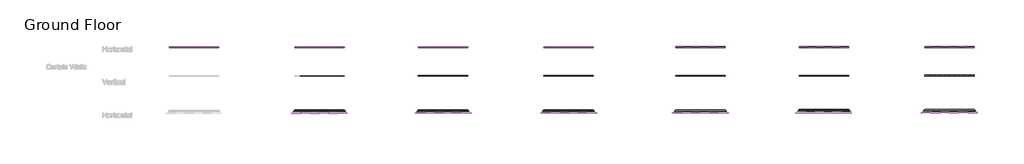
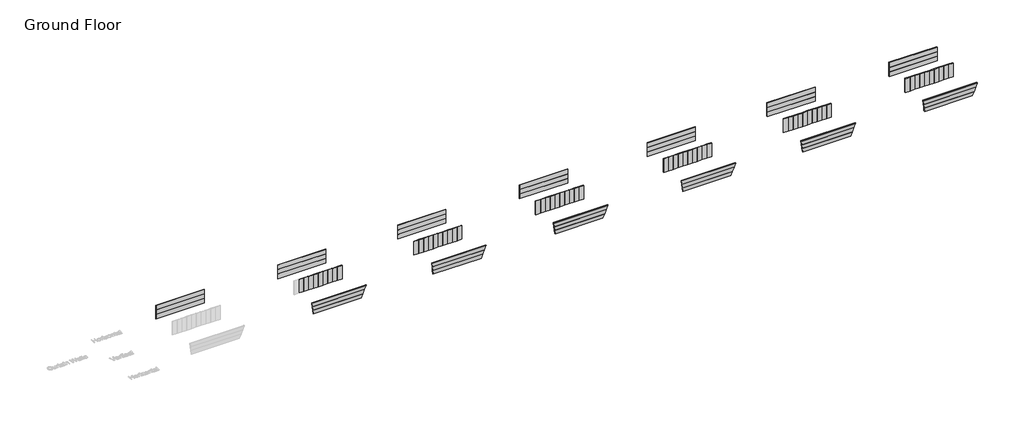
# One storey, part 2 of 12: 104 plates.
"""IFC4 building model written with IfcOpenShell, lengths in millimetres."""

from ifc_helpers import new_model, si_unit, origin, place, context, project, spatial, transform, mapped, element, save
from components import system_panel_b9144f36, system_panel_0a53ee62, system_panel_b4dcba00, system_panel_4d645eaa, system_panel_fcf58fec, system_panel_8b758ca3, system_panel_d17300d9, system_panel_00bbb9c2, system_panel_5412cff0, system_panel_5a2396c1, system_panel_ce2c7b31, system_panel_c018d1ff, system_panel_78b518a9, system_panel_2705c962, system_panel_d2e90ea6, system_panel_0f48972a, system_panel_6ea07461, system_panel_d03f2665, system_panel_1483571d, system_panel_d0ebf1be, system_panel_d07f9d4c, system_panel_39fee353, system_panel_68acf3b8, system_panel_b356437f, system_panel_923aaa1d, system_panel_702b6c4c, system_panel_78934fff, system_panel_9042fe93, system_panel_36b0335f, system_panel_2fc1e0e9, system_panel_d273da9d, system_panel_72fa3ca7, system_panel_4373b866, system_panel_89863b5f, system_panel_9cd49ddd, system_panel_727e9318, system_panel_5dc12aba

model = new_model("IFC4")

# Units and contexts
model_context = context("Model", 3, world=origin())
ifc_project = project(units=[si_unit("LENGTHUNIT", "METRE", prefix="MILLI")], contexts=[model_context])

# Site, building, storey
site = spatial("IfcSite", under=ifc_project)
building = spatial("IfcBuilding", under=site)
storey = spatial("IfcBuildingStorey", under=building, Name="Ground Floor", Elevation=0.0)

# Plates
placement = place(None, origin())
system_panel_shape = system_panel_b9144f36(model_context)
element("IfcPlate", 1, ObjectType="System Panel : Equitilt_100mm_Plain_Surfmist", at=placement, inside=storey, context=model_context, shape_type="MappedRepresentation", body=[
    mapped(system_panel_shape, transform((65229.2463003, 2025.9321053, 0.0), x_axis=(-1.0, 0.0, 0.0), y_axis=(0.0, -0.978268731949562, -0.20734099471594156), z_axis=(0.0, -0.20734099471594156, 0.978268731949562))),
])
system_panel_2_shape = system_panel_0a53ee62(model_context)
element("IfcPlate", 2, ObjectType="System Panel : Equitilt_100mm_Plain_Surfmist", at=placement, inside=storey, context=model_context, shape_type="MappedRepresentation", body=[
    mapped(system_panel_2_shape, transform((65229.2463003, 1777.1229116, 1173.9224783), x_axis=(-1.0, 0.0, 0.0), y_axis=(0.0, -0.978268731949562, -0.20734099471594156), z_axis=(0.0, -0.20734099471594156, 0.978268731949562))),
])
system_panel_3_shape = system_panel_b4dcba00(model_context)
element("IfcPlate", 3, ObjectType="System Panel : Equitilt_100mm_Plain_Surfmist", at=placement, inside=storey, context=model_context, shape_type="MappedRepresentation", body=[
    mapped(system_panel_3_shape, transform((65229.2463003, 1528.313718, 2347.8449567), x_axis=(-1.0, 0.0, 0.0), y_axis=(0.0, -0.978268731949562, -0.20734099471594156), z_axis=(0.0, -0.20734099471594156, 0.978268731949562))),
])
system_panel_4_shape = system_panel_4d645eaa(model_context)
element("IfcPlate", 4, ObjectType="System Panel : Equitilt_100mm_Plain_Surfmist", at=placement, inside=storey, context=model_context, shape_type="MappedRepresentation", body=[
    mapped(system_panel_4_shape, transform((65229.2463003, 1279.5045243, 3521.767435), x_axis=(-1.0, 0.0, 0.0), y_axis=(0.0, -0.978268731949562, -0.20734099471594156), z_axis=(0.0, -0.20734099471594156, 0.978268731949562))),
])
system_panel_5_shape = system_panel_fcf58fec(model_context)
element("IfcPlate", 5, ObjectType="System Panel : Equitilt_125mm_Plain_Surfmist", at=placement, inside=storey, context=model_context, shape_type="MappedRepresentation", body=[
    mapped(system_panel_5_shape, transform((95729.2463003, 2025.9321053, 0.0), x_axis=(-1.0, 0.0, 0.0), y_axis=(0.0, -0.978268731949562, -0.20734099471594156), z_axis=(0.0, -0.20734099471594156, 0.978268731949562))),
])
system_panel_6_shape = system_panel_8b758ca3(model_context)
element("IfcPlate", 6, ObjectType="System Panel : Equitilt_125mm_Plain_Surfmist", at=placement, inside=storey, context=model_context, shape_type="MappedRepresentation", body=[
    mapped(system_panel_6_shape, transform((95729.2463003, 1777.1229116, 1173.9224783), x_axis=(-1.0, 0.0, 0.0), y_axis=(0.0, -0.978268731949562, -0.20734099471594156), z_axis=(0.0, -0.20734099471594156, 0.978268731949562))),
])
system_panel_7_shape = system_panel_d17300d9(model_context)
element("IfcPlate", 7, ObjectType="System Panel : Equitilt_125mm_Plain_Surfmist", at=placement, inside=storey, context=model_context, shape_type="MappedRepresentation", body=[
    mapped(system_panel_7_shape, transform((95729.2463003, 1528.313718, 2347.8449567), x_axis=(-1.0, 0.0, 0.0), y_axis=(0.0, -0.978268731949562, -0.20734099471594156), z_axis=(0.0, -0.20734099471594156, 0.978268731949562))),
])
system_panel_8_shape = system_panel_00bbb9c2(model_context)
element("IfcPlate", 8, ObjectType="System Panel : Equitilt_125mm_Plain_Surfmist", at=placement, inside=storey, context=model_context, shape_type="MappedRepresentation", body=[
    mapped(system_panel_8_shape, transform((95729.2463003, 1279.5045243, 3521.767435), x_axis=(-1.0, 0.0, 0.0), y_axis=(0.0, -0.978268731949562, -0.20734099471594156), z_axis=(0.0, -0.20734099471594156, 0.978268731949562))),
])
system_panel_9_shape = system_panel_5412cff0(model_context)
element("IfcPlate", 9, ObjectType="System Panel : Equitilt_150mm_Plain_Surfmist", at=placement, inside=storey, context=model_context, shape_type="MappedRepresentation", body=[
    mapped(system_panel_9_shape, transform((127729.2463003, 2025.9321053, 0.0), x_axis=(-1.0, 0.0, 0.0), y_axis=(0.0, -0.978268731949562, -0.20734099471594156), z_axis=(0.0, -0.20734099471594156, 0.978268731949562))),
])
system_panel_10_shape = system_panel_5a2396c1(model_context)
element("IfcPlate", 10, ObjectType="System Panel : Equitilt_150mm_Plain_Surfmist", at=placement, inside=storey, context=model_context, shape_type="MappedRepresentation", body=[
    mapped(system_panel_10_shape, transform((127729.2463003, 1777.1229116, 1173.9224783), x_axis=(-1.0, 0.0, 0.0), y_axis=(0.0, -0.978268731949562, -0.20734099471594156), z_axis=(0.0, -0.20734099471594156, 0.978268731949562))),
])
system_panel_11_shape = system_panel_ce2c7b31(model_context)
element("IfcPlate", 11, ObjectType="System Panel : Equitilt_150mm_Plain_Surfmist", at=placement, inside=storey, context=model_context, shape_type="MappedRepresentation", body=[
    mapped(system_panel_11_shape, transform((127729.2463003, 1528.313718, 2347.8449567), x_axis=(-1.0, 0.0, 0.0), y_axis=(0.0, -0.978268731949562, -0.20734099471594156), z_axis=(0.0, -0.20734099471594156, 0.978268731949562))),
])
system_panel_12_shape = system_panel_c018d1ff(model_context)
element("IfcPlate", 12, ObjectType="System Panel : Equitilt_150mm_Plain_Surfmist", at=placement, inside=storey, context=model_context, shape_type="MappedRepresentation", body=[
    mapped(system_panel_12_shape, transform((127729.2463003, 1279.5045243, 3521.767435), x_axis=(-1.0, 0.0, 0.0), y_axis=(0.0, -0.978268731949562, -0.20734099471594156), z_axis=(0.0, -0.20734099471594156, 0.978268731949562))),
])
system_panel_13_shape = system_panel_78b518a9(model_context)
element("IfcPlate", 13, ObjectType="System Panel : Equitilt_200mm_Plain_Surfmist", at=placement, inside=storey, context=model_context, shape_type="MappedRepresentation", body=[
    mapped(system_panel_13_shape, transform((157729.2463003, 2025.9321053, 0.0), x_axis=(-1.0, 0.0, 0.0), y_axis=(0.0, -0.978268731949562, -0.20734099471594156), z_axis=(0.0, -0.20734099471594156, 0.978268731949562))),
])
system_panel_14_shape = system_panel_2705c962(model_context)
element("IfcPlate", 14, ObjectType="System Panel : Equitilt_200mm_Plain_Surfmist", at=placement, inside=storey, context=model_context, shape_type="MappedRepresentation", body=[
    mapped(system_panel_14_shape, transform((157729.2463003, 1777.1229116, 1173.9224783), x_axis=(-1.0, 0.0, 0.0), y_axis=(0.0, -0.978268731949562, -0.20734099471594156), z_axis=(0.0, -0.20734099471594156, 0.978268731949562))),
])
system_panel_15_shape = system_panel_d2e90ea6(model_context)
element("IfcPlate", 15, ObjectType="System Panel : Equitilt_200mm_Plain_Surfmist", at=placement, inside=storey, context=model_context, shape_type="MappedRepresentation", body=[
    mapped(system_panel_15_shape, transform((157729.2463003, 1528.313718, 2347.8449567), x_axis=(-1.0, 0.0, 0.0), y_axis=(0.0, -0.978268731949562, -0.20734099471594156), z_axis=(0.0, -0.20734099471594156, 0.978268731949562))),
])
system_panel_16_shape = system_panel_0f48972a(model_context)
element("IfcPlate", 16, ObjectType="System Panel : Equitilt_200mm_Plain_Surfmist", at=placement, inside=storey, context=model_context, shape_type="MappedRepresentation", body=[
    mapped(system_panel_16_shape, transform((157729.2463003, 1279.5045243, 3521.767435), x_axis=(-1.0, 0.0, 0.0), y_axis=(0.0, -0.978268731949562, -0.20734099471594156), z_axis=(0.0, -0.20734099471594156, 0.978268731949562))),
])
system_panel_17_shape = system_panel_6ea07461(model_context)
element("IfcPlate", 17, ObjectType="System Panel : Equitilt_250mm_Plain_Surfmist", at=placement, inside=storey, context=model_context, shape_type="MappedRepresentation", body=[
    mapped(system_panel_17_shape, transform((188229.2463003, 2025.9321053, 0.0), x_axis=(-1.0, 0.0, 0.0), y_axis=(0.0, -0.978268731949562, -0.20734099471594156), z_axis=(0.0, -0.20734099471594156, 0.978268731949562))),
])
system_panel_18_shape = system_panel_d03f2665(model_context)
element("IfcPlate", 18, ObjectType="System Panel : Equitilt_250mm_Plain_Surfmist", at=placement, inside=storey, context=model_context, shape_type="MappedRepresentation", body=[
    mapped(system_panel_18_shape, transform((188229.2463003, 1777.1229116, 1173.9224783), x_axis=(-1.0, 0.0, 0.0), y_axis=(0.0, -0.978268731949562, -0.20734099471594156), z_axis=(0.0, -0.20734099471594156, 0.978268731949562))),
])
system_panel_19_shape = system_panel_1483571d(model_context)
element("IfcPlate", 19, ObjectType="System Panel : Equitilt_250mm_Plain_Surfmist", at=placement, inside=storey, context=model_context, shape_type="MappedRepresentation", body=[
    mapped(system_panel_19_shape, transform((188229.2463003, 1528.313718, 2347.8449567), x_axis=(-1.0, 0.0, 0.0), y_axis=(0.0, -0.978268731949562, -0.20734099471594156), z_axis=(0.0, -0.20734099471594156, 0.978268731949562))),
])
system_panel_20_shape = system_panel_d0ebf1be(model_context)
element("IfcPlate", 20, ObjectType="System Panel : Equitilt_250mm_Plain_Surfmist", at=placement, inside=storey, context=model_context, shape_type="MappedRepresentation", body=[
    mapped(system_panel_20_shape, transform((188229.2463003, 1279.5045243, 3521.767435), x_axis=(-1.0, 0.0, 0.0), y_axis=(0.0, -0.978268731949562, -0.20734099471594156), z_axis=(0.0, -0.20734099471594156, 0.978268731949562))),
])
system_panel_21_shape = system_panel_d07f9d4c(model_context)
element("IfcPlate", 21, ObjectType="System Panel : Equitilt_50mm_Plain_Surfmist", at=placement, inside=storey, context=model_context, shape_type="MappedRepresentation", body=[
    mapped(system_panel_21_shape, transform((4729.2463003, 17365.9321053, 0.0), x_axis=(1.0, 0.0, 0.0), y_axis=(0.0, 1.0, 0.0), z_axis=(0.0, 0.0, 1.0))),
])
element("IfcPlate", 22, ObjectType="System Panel : Equitilt_50mm_Plain_Surfmist", at=placement, inside=storey, context=model_context, shape_type="MappedRepresentation", body=[
    mapped(system_panel_21_shape, transform((4729.2463003, 17365.9321053, 1200.0), x_axis=(1.0, 0.0, 0.0), y_axis=(0.0, 1.0, 0.0), z_axis=(0.0, 0.0, 1.0))),
])
element("IfcPlate", 23, ObjectType="System Panel : Equitilt_50mm_Plain_Surfmist", at=placement, inside=storey, context=model_context, shape_type="MappedRepresentation", body=[
    mapped(system_panel_21_shape, transform((4729.2463003, 17365.9321053, 2400.0), x_axis=(1.0, 0.0, 0.0), y_axis=(0.0, 1.0, 0.0), z_axis=(0.0, 0.0, 1.0))),
])
system_panel_22_shape = system_panel_39fee353(model_context)
element("IfcPlate", 24, ObjectType="System Panel : Equitilt_100mm_Plain_Surfmist", at=placement, inside=storey, context=model_context, shape_type="MappedRepresentation", body=[
    mapped(system_panel_22_shape, transform((65229.2463003, 17365.9321053, 0.0), x_axis=(1.0, 0.0, 0.0), y_axis=(0.0, 1.0, 0.0), z_axis=(0.0, 0.0, 1.0))),
])
element("IfcPlate", 25, ObjectType="System Panel : Equitilt_100mm_Plain_Surfmist", at=placement, inside=storey, context=model_context, shape_type="MappedRepresentation", body=[
    mapped(system_panel_22_shape, transform((65229.2463003, 17365.9321053, 1200.0), x_axis=(1.0, 0.0, 0.0), y_axis=(0.0, 1.0, 0.0), z_axis=(0.0, 0.0, 1.0))),
])
element("IfcPlate", 26, ObjectType="System Panel : Equitilt_100mm_Plain_Surfmist", at=placement, inside=storey, context=model_context, shape_type="MappedRepresentation", body=[
    mapped(system_panel_22_shape, transform((65229.2463003, 17365.9321053, 2400.0), x_axis=(1.0, 0.0, 0.0), y_axis=(0.0, 1.0, 0.0), z_axis=(0.0, 0.0, 1.0))),
])
system_panel_23_shape = system_panel_68acf3b8(model_context)
element("IfcPlate", 27, ObjectType="System Panel : Equitilt_125mm_Plain_Surfmist", at=placement, inside=storey, context=model_context, shape_type="MappedRepresentation", body=[
    mapped(system_panel_23_shape, transform((95729.2463003, 17365.9321053, 0.0), x_axis=(1.0, 0.0, 0.0), y_axis=(0.0, 1.0, 0.0), z_axis=(0.0, 0.0, 1.0))),
])
element("IfcPlate", 28, ObjectType="System Panel : Equitilt_125mm_Plain_Surfmist", at=placement, inside=storey, context=model_context, shape_type="MappedRepresentation", body=[
    mapped(system_panel_23_shape, transform((95729.2463003, 17365.9321053, 1200.0), x_axis=(1.0, 0.0, 0.0), y_axis=(0.0, 1.0, 0.0), z_axis=(0.0, 0.0, 1.0))),
])
element("IfcPlate", 29, ObjectType="System Panel : Equitilt_125mm_Plain_Surfmist", at=placement, inside=storey, context=model_context, shape_type="MappedRepresentation", body=[
    mapped(system_panel_23_shape, transform((95729.2463003, 17365.9321053, 2400.0), x_axis=(1.0, 0.0, 0.0), y_axis=(0.0, 1.0, 0.0), z_axis=(0.0, 0.0, 1.0))),
])
system_panel_24_shape = system_panel_b356437f(model_context)
element("IfcPlate", 30, ObjectType="System Panel : Equitilt_150mm_Plain_Surfmist", at=placement, inside=storey, context=model_context, shape_type="MappedRepresentation", body=[
    mapped(system_panel_24_shape, transform((127729.2463003, 17365.9321053, 0.0), x_axis=(1.0, 0.0, 0.0), y_axis=(0.0, 1.0, 0.0), z_axis=(0.0, 0.0, 1.0))),
])
element("IfcPlate", 31, ObjectType="System Panel : Equitilt_150mm_Plain_Surfmist", at=placement, inside=storey, context=model_context, shape_type="MappedRepresentation", body=[
    mapped(system_panel_24_shape, transform((127729.2463003, 17365.9321053, 1200.0), x_axis=(1.0, 0.0, 0.0), y_axis=(0.0, 1.0, 0.0), z_axis=(0.0, 0.0, 1.0))),
])
element("IfcPlate", 32, ObjectType="System Panel : Equitilt_150mm_Plain_Surfmist", at=placement, inside=storey, context=model_context, shape_type="MappedRepresentation", body=[
    mapped(system_panel_24_shape, transform((127729.2463003, 17365.9321053, 2400.0), x_axis=(1.0, 0.0, 0.0), y_axis=(0.0, 1.0, 0.0), z_axis=(0.0, 0.0, 1.0))),
])
system_panel_25_shape = system_panel_923aaa1d(model_context)
element("IfcPlate", 33, ObjectType="System Panel : Equitilt_200mm_Plain_Surfmist", at=placement, inside=storey, context=model_context, shape_type="MappedRepresentation", body=[
    mapped(system_panel_25_shape, transform((157729.2463003, 17365.9321053, 0.0), x_axis=(1.0, 0.0, 0.0), y_axis=(0.0, 1.0, 0.0), z_axis=(0.0, 0.0, 1.0))),
])
element("IfcPlate", 34, ObjectType="System Panel : Equitilt_200mm_Plain_Surfmist", at=placement, inside=storey, context=model_context, shape_type="MappedRepresentation", body=[
    mapped(system_panel_25_shape, transform((157729.2463003, 17365.9321053, 1200.0), x_axis=(1.0, 0.0, 0.0), y_axis=(0.0, 1.0, 0.0), z_axis=(0.0, 0.0, 1.0))),
])
element("IfcPlate", 35, ObjectType="System Panel : Equitilt_200mm_Plain_Surfmist", at=placement, inside=storey, context=model_context, shape_type="MappedRepresentation", body=[
    mapped(system_panel_25_shape, transform((157729.2463003, 17365.9321053, 2400.0), x_axis=(1.0, 0.0, 0.0), y_axis=(0.0, 1.0, 0.0), z_axis=(0.0, 0.0, 1.0))),
])
system_panel_26_shape = system_panel_702b6c4c(model_context)
element("IfcPlate", 36, ObjectType="System Panel : Equitilt_250mm_Plain_Surfmist", at=placement, inside=storey, context=model_context, shape_type="MappedRepresentation", body=[
    mapped(system_panel_26_shape, transform((188229.2463003, 17365.9321053, 0.0), x_axis=(1.0, 0.0, 0.0), y_axis=(0.0, 1.0, 0.0), z_axis=(0.0, 0.0, 1.0))),
])
element("IfcPlate", 37, ObjectType="System Panel : Equitilt_250mm_Plain_Surfmist", at=placement, inside=storey, context=model_context, shape_type="MappedRepresentation", body=[
    mapped(system_panel_26_shape, transform((188229.2463003, 17365.9321053, 1200.0), x_axis=(1.0, 0.0, 0.0), y_axis=(0.0, 1.0, 0.0), z_axis=(0.0, 0.0, 1.0))),
])
element("IfcPlate", 38, ObjectType="System Panel : Equitilt_250mm_Plain_Surfmist", at=placement, inside=storey, context=model_context, shape_type="MappedRepresentation", body=[
    mapped(system_panel_26_shape, transform((188229.2463003, 17365.9321053, 2400.0), x_axis=(1.0, 0.0, 0.0), y_axis=(0.0, 1.0, 0.0), z_axis=(0.0, 0.0, 1.0))),
])
system_panel_27_shape = system_panel_78934fff(model_context)
element("IfcPlate", 39, ObjectType="System Panel : Equitilt_100mm_Plain_Surfmist", at=placement, inside=storey, context=model_context, shape_type="MappedRepresentation", body=[
    mapped(system_panel_27_shape, transform((59829.2463003, 10365.9321053, 0.0), x_axis=(1.0, 0.0, 0.0), y_axis=(0.0, 1.0, 0.0), z_axis=(0.0, 0.0, 1.0))),
])
element("IfcPlate", 40, ObjectType="System Panel : Equitilt_100mm_Plain_Surfmist", at=placement, inside=storey, context=model_context, shape_type="MappedRepresentation", body=[
    mapped(system_panel_27_shape, transform((62229.2463003, 10365.9321053, 0.0), x_axis=(1.0, 0.0, 0.0), y_axis=(0.0, 1.0, 0.0), z_axis=(0.0, 0.0, 1.0))),
])
element("IfcPlate", 41, ObjectType="System Panel : Equitilt_100mm_Plain_Surfmist", at=placement, inside=storey, context=model_context, shape_type="MappedRepresentation", body=[
    mapped(system_panel_27_shape, transform((63429.2463003, 10365.9321053, 0.0), x_axis=(1.0, 0.0, 0.0), y_axis=(0.0, 1.0, 0.0), z_axis=(0.0, 0.0, 1.0))),
])
element("IfcPlate", 42, ObjectType="System Panel : Equitilt_100mm_Plain_Surfmist", at=placement, inside=storey, context=model_context, shape_type="MappedRepresentation", body=[
    mapped(system_panel_27_shape, transform((64629.2463003, 10365.9321053, 0.0), x_axis=(1.0, 0.0, 0.0), y_axis=(0.0, 1.0, 0.0), z_axis=(0.0, 0.0, 1.0))),
])
element("IfcPlate", 43, ObjectType="System Panel : Equitilt_100mm_Plain_Surfmist", at=placement, inside=storey, context=model_context, shape_type="MappedRepresentation", body=[
    mapped(system_panel_27_shape, transform((65829.2463003, 10365.9321053, 0.0), x_axis=(1.0, 0.0, 0.0), y_axis=(0.0, 1.0, 0.0), z_axis=(0.0, 0.0, 1.0))),
])
element("IfcPlate", 44, ObjectType="System Panel : Equitilt_100mm_Plain_Surfmist", at=placement, inside=storey, context=model_context, shape_type="MappedRepresentation", body=[
    mapped(system_panel_27_shape, transform((67029.2463003, 10365.9321053, 0.0), x_axis=(1.0, 0.0, 0.0), y_axis=(0.0, 1.0, 0.0), z_axis=(0.0, 0.0, 1.0))),
])
element("IfcPlate", 45, ObjectType="System Panel : Equitilt_100mm_Plain_Surfmist", at=placement, inside=storey, context=model_context, shape_type="MappedRepresentation", body=[
    mapped(system_panel_27_shape, transform((68229.2463003, 10365.9321053, 0.0), x_axis=(1.0, 0.0, 0.0), y_axis=(0.0, 1.0, 0.0), z_axis=(0.0, 0.0, 1.0))),
])
element("IfcPlate", 46, ObjectType="System Panel : Equitilt_100mm_Plain_Surfmist", at=placement, inside=storey, context=model_context, shape_type="MappedRepresentation", body=[
    mapped(system_panel_27_shape, transform((69429.2463003, 10365.9321053, 0.0), x_axis=(1.0, 0.0, 0.0), y_axis=(0.0, 1.0, 0.0), z_axis=(0.0, 0.0, 1.0))),
])
element("IfcPlate", 47, ObjectType="System Panel : Equitilt_100mm_Plain_Surfmist", at=placement, inside=storey, context=model_context, shape_type="MappedRepresentation", body=[
    mapped(system_panel_27_shape, transform((70629.2463003, 10365.9321053, 0.0), x_axis=(1.0, 0.0, 0.0), y_axis=(0.0, 1.0, 0.0), z_axis=(0.0, 0.0, 1.0))),
])
element("IfcPlate", 48, ObjectType="System Panel : Equitilt_100mm_Plain_Surfmist", at=placement, inside=storey, context=model_context, shape_type="MappedRepresentation", body=[
    mapped(system_panel_27_shape, transform((61029.2463003, 10365.9321053, 0.0), x_axis=(1.0, 0.0, 0.0), y_axis=(0.0, 1.0, 0.0), z_axis=(0.0, 0.0, 1.0))),
])
system_panel_28_shape = system_panel_9042fe93(model_context)
element("IfcPlate", 49, ObjectType="System Panel : Equitilt_125mm_Plain_Surfmist", at=placement, inside=storey, context=model_context, shape_type="MappedRepresentation", body=[
    mapped(system_panel_28_shape, transform((90329.2463003, 10365.9321053, 0.0), x_axis=(1.0, 0.0, 0.0), y_axis=(0.0, 1.0, 0.0), z_axis=(0.0, 0.0, 1.0))),
])
element("IfcPlate", 50, ObjectType="System Panel : Equitilt_125mm_Plain_Surfmist", at=placement, inside=storey, context=model_context, shape_type="MappedRepresentation", body=[
    mapped(system_panel_28_shape, transform((92729.2463003, 10365.9321053, 0.0), x_axis=(1.0, 0.0, 0.0), y_axis=(0.0, 1.0, 0.0), z_axis=(0.0, 0.0, 1.0))),
])
element("IfcPlate", 51, ObjectType="System Panel : Equitilt_125mm_Plain_Surfmist", at=placement, inside=storey, context=model_context, shape_type="MappedRepresentation", body=[
    mapped(system_panel_28_shape, transform((93929.2463003, 10365.9321053, 0.0), x_axis=(1.0, 0.0, 0.0), y_axis=(0.0, 1.0, 0.0), z_axis=(0.0, 0.0, 1.0))),
])
element("IfcPlate", 52, ObjectType="System Panel : Equitilt_125mm_Plain_Surfmist", at=placement, inside=storey, context=model_context, shape_type="MappedRepresentation", body=[
    mapped(system_panel_28_shape, transform((95129.2463003, 10365.9321053, 0.0), x_axis=(1.0, 0.0, 0.0), y_axis=(0.0, 1.0, 0.0), z_axis=(0.0, 0.0, 1.0))),
])
element("IfcPlate", 53, ObjectType="System Panel : Equitilt_125mm_Plain_Surfmist", at=placement, inside=storey, context=model_context, shape_type="MappedRepresentation", body=[
    mapped(system_panel_28_shape, transform((96329.2463003, 10365.9321053, 0.0), x_axis=(1.0, 0.0, 0.0), y_axis=(0.0, 1.0, 0.0), z_axis=(0.0, 0.0, 1.0))),
])
element("IfcPlate", 54, ObjectType="System Panel : Equitilt_125mm_Plain_Surfmist", at=placement, inside=storey, context=model_context, shape_type="MappedRepresentation", body=[
    mapped(system_panel_28_shape, transform((97529.2463003, 10365.9321053, 0.0), x_axis=(1.0, 0.0, 0.0), y_axis=(0.0, 1.0, 0.0), z_axis=(0.0, 0.0, 1.0))),
])
element("IfcPlate", 55, ObjectType="System Panel : Equitilt_125mm_Plain_Surfmist", at=placement, inside=storey, context=model_context, shape_type="MappedRepresentation", body=[
    mapped(system_panel_28_shape, transform((98729.2463003, 10365.9321053, 0.0), x_axis=(1.0, 0.0, 0.0), y_axis=(0.0, 1.0, 0.0), z_axis=(0.0, 0.0, 1.0))),
])
element("IfcPlate", 56, ObjectType="System Panel : Equitilt_125mm_Plain_Surfmist", at=placement, inside=storey, context=model_context, shape_type="MappedRepresentation", body=[
    mapped(system_panel_28_shape, transform((99929.2463003, 10365.9321053, 0.0), x_axis=(1.0, 0.0, 0.0), y_axis=(0.0, 1.0, 0.0), z_axis=(0.0, 0.0, 1.0))),
])
element("IfcPlate", 57, ObjectType="System Panel : Equitilt_125mm_Plain_Surfmist", at=placement, inside=storey, context=model_context, shape_type="MappedRepresentation", body=[
    mapped(system_panel_28_shape, transform((101129.2463003, 10365.9321053, 0.0), x_axis=(1.0, 0.0, 0.0), y_axis=(0.0, 1.0, 0.0), z_axis=(0.0, 0.0, 1.0))),
])
element("IfcPlate", 58, ObjectType="System Panel : Equitilt_125mm_Plain_Surfmist", at=placement, inside=storey, context=model_context, shape_type="MappedRepresentation", body=[
    mapped(system_panel_28_shape, transform((91529.2463003, 10365.9321053, 0.0), x_axis=(1.0, 0.0, 0.0), y_axis=(0.0, 1.0, 0.0), z_axis=(0.0, 0.0, 1.0))),
])
system_panel_29_shape = system_panel_36b0335f(model_context)
element("IfcPlate", 59, ObjectType="System Panel : Equitilt_150mm_Plain_Surfmist", at=placement, inside=storey, context=model_context, shape_type="MappedRepresentation", body=[
    mapped(system_panel_29_shape, transform((122329.2463003, 10365.9321053, 0.0), x_axis=(1.0, 0.0, 0.0), y_axis=(0.0, 1.0, 0.0), z_axis=(0.0, 0.0, 1.0))),
])
element("IfcPlate", 60, ObjectType="System Panel : Equitilt_150mm_Plain_Surfmist", at=placement, inside=storey, context=model_context, shape_type="MappedRepresentation", body=[
    mapped(system_panel_29_shape, transform((124729.2463003, 10365.9321053, 0.0), x_axis=(1.0, 0.0, 0.0), y_axis=(0.0, 1.0, 0.0), z_axis=(0.0, 0.0, 1.0))),
])
element("IfcPlate", 61, ObjectType="System Panel : Equitilt_150mm_Plain_Surfmist", at=placement, inside=storey, context=model_context, shape_type="MappedRepresentation", body=[
    mapped(system_panel_29_shape, transform((125929.2463003, 10365.9321053, 0.0), x_axis=(1.0, 0.0, 0.0), y_axis=(0.0, 1.0, 0.0), z_axis=(0.0, 0.0, 1.0))),
])
element("IfcPlate", 62, ObjectType="System Panel : Equitilt_150mm_Plain_Surfmist", at=placement, inside=storey, context=model_context, shape_type="MappedRepresentation", body=[
    mapped(system_panel_29_shape, transform((127129.2463003, 10365.9321053, 0.0), x_axis=(1.0, 0.0, 0.0), y_axis=(0.0, 1.0, 0.0), z_axis=(0.0, 0.0, 1.0))),
])
element("IfcPlate", 63, ObjectType="System Panel : Equitilt_150mm_Plain_Surfmist", at=placement, inside=storey, context=model_context, shape_type="MappedRepresentation", body=[
    mapped(system_panel_29_shape, transform((128329.2463003, 10365.9321053, 0.0), x_axis=(1.0, 0.0, 0.0), y_axis=(0.0, 1.0, 0.0), z_axis=(0.0, 0.0, 1.0))),
])
element("IfcPlate", 64, ObjectType="System Panel : Equitilt_150mm_Plain_Surfmist", at=placement, inside=storey, context=model_context, shape_type="MappedRepresentation", body=[
    mapped(system_panel_29_shape, transform((129529.2463003, 10365.9321053, 0.0), x_axis=(1.0, 0.0, 0.0), y_axis=(0.0, 1.0, 0.0), z_axis=(0.0, 0.0, 1.0))),
])
element("IfcPlate", 65, ObjectType="System Panel : Equitilt_150mm_Plain_Surfmist", at=placement, inside=storey, context=model_context, shape_type="MappedRepresentation", body=[
    mapped(system_panel_29_shape, transform((130729.2463003, 10365.9321053, 0.0), x_axis=(1.0, 0.0, 0.0), y_axis=(0.0, 1.0, 0.0), z_axis=(0.0, 0.0, 1.0))),
])
element("IfcPlate", 66, ObjectType="System Panel : Equitilt_150mm_Plain_Surfmist", at=placement, inside=storey, context=model_context, shape_type="MappedRepresentation", body=[
    mapped(system_panel_29_shape, transform((131929.2463003, 10365.9321053, 0.0), x_axis=(1.0, 0.0, 0.0), y_axis=(0.0, 1.0, 0.0), z_axis=(0.0, 0.0, 1.0))),
])
element("IfcPlate", 67, ObjectType="System Panel : Equitilt_150mm_Plain_Surfmist", at=placement, inside=storey, context=model_context, shape_type="MappedRepresentation", body=[
    mapped(system_panel_29_shape, transform((133129.2463003, 10365.9321053, 0.0), x_axis=(1.0, 0.0, 0.0), y_axis=(0.0, 1.0, 0.0), z_axis=(0.0, 0.0, 1.0))),
])
element("IfcPlate", 68, ObjectType="System Panel : Equitilt_150mm_Plain_Surfmist", at=placement, inside=storey, context=model_context, shape_type="MappedRepresentation", body=[
    mapped(system_panel_29_shape, transform((123529.2463003, 10365.9321053, 0.0), x_axis=(1.0, 0.0, 0.0), y_axis=(0.0, 1.0, 0.0), z_axis=(0.0, 0.0, 1.0))),
])
system_panel_30_shape = system_panel_2fc1e0e9(model_context)
element("IfcPlate", 69, ObjectType="System Panel : Equitilt_200mm_Plain_Surfmist", at=placement, inside=storey, context=model_context, shape_type="MappedRepresentation", body=[
    mapped(system_panel_30_shape, transform((152329.2463003, 10365.9321053, 0.0), x_axis=(1.0, 0.0, 0.0), y_axis=(0.0, 1.0, 0.0), z_axis=(0.0, 0.0, 1.0))),
])
element("IfcPlate", 70, ObjectType="System Panel : Equitilt_200mm_Plain_Surfmist", at=placement, inside=storey, context=model_context, shape_type="MappedRepresentation", body=[
    mapped(system_panel_30_shape, transform((154729.2463003, 10365.9321053, 0.0), x_axis=(1.0, 0.0, 0.0), y_axis=(0.0, 1.0, 0.0), z_axis=(0.0, 0.0, 1.0))),
])
element("IfcPlate", 71, ObjectType="System Panel : Equitilt_200mm_Plain_Surfmist", at=placement, inside=storey, context=model_context, shape_type="MappedRepresentation", body=[
    mapped(system_panel_30_shape, transform((155929.2463003, 10365.9321053, 0.0), x_axis=(1.0, 0.0, 0.0), y_axis=(0.0, 1.0, 0.0), z_axis=(0.0, 0.0, 1.0))),
])
element("IfcPlate", 72, ObjectType="System Panel : Equitilt_200mm_Plain_Surfmist", at=placement, inside=storey, context=model_context, shape_type="MappedRepresentation", body=[
    mapped(system_panel_30_shape, transform((157129.2463003, 10365.9321053, 0.0), x_axis=(1.0, 0.0, 0.0), y_axis=(0.0, 1.0, 0.0), z_axis=(0.0, 0.0, 1.0))),
])
element("IfcPlate", 73, ObjectType="System Panel : Equitilt_200mm_Plain_Surfmist", at=placement, inside=storey, context=model_context, shape_type="MappedRepresentation", body=[
    mapped(system_panel_30_shape, transform((158329.2463003, 10365.9321053, 0.0), x_axis=(1.0, 0.0, 0.0), y_axis=(0.0, 1.0, 0.0), z_axis=(0.0, 0.0, 1.0))),
])
element("IfcPlate", 74, ObjectType="System Panel : Equitilt_200mm_Plain_Surfmist", at=placement, inside=storey, context=model_context, shape_type="MappedRepresentation", body=[
    mapped(system_panel_30_shape, transform((159529.2463003, 10365.9321053, 0.0), x_axis=(1.0, 0.0, 0.0), y_axis=(0.0, 1.0, 0.0), z_axis=(0.0, 0.0, 1.0))),
])
element("IfcPlate", 75, ObjectType="System Panel : Equitilt_200mm_Plain_Surfmist", at=placement, inside=storey, context=model_context, shape_type="MappedRepresentation", body=[
    mapped(system_panel_30_shape, transform((160729.2463003, 10365.9321053, 0.0), x_axis=(1.0, 0.0, 0.0), y_axis=(0.0, 1.0, 0.0), z_axis=(0.0, 0.0, 1.0))),
])
element("IfcPlate", 76, ObjectType="System Panel : Equitilt_200mm_Plain_Surfmist", at=placement, inside=storey, context=model_context, shape_type="MappedRepresentation", body=[
    mapped(system_panel_30_shape, transform((161929.2463003, 10365.9321053, 0.0), x_axis=(1.0, 0.0, 0.0), y_axis=(0.0, 1.0, 0.0), z_axis=(0.0, 0.0, 1.0))),
])
element("IfcPlate", 77, ObjectType="System Panel : Equitilt_200mm_Plain_Surfmist", at=placement, inside=storey, context=model_context, shape_type="MappedRepresentation", body=[
    mapped(system_panel_30_shape, transform((163129.2463003, 10365.9321053, 0.0), x_axis=(1.0, 0.0, 0.0), y_axis=(0.0, 1.0, 0.0), z_axis=(0.0, 0.0, 1.0))),
])
element("IfcPlate", 78, ObjectType="System Panel : Equitilt_200mm_Plain_Surfmist", at=placement, inside=storey, context=model_context, shape_type="MappedRepresentation", body=[
    mapped(system_panel_30_shape, transform((153529.2463003, 10365.9321053, 0.0), x_axis=(1.0, 0.0, 0.0), y_axis=(0.0, 1.0, 0.0), z_axis=(0.0, 0.0, 1.0))),
])
system_panel_31_shape = system_panel_d273da9d(model_context)
element("IfcPlate", 79, ObjectType="System Panel : Equitilt_250mm_Plain_Surfmist", at=placement, inside=storey, context=model_context, shape_type="MappedRepresentation", body=[
    mapped(system_panel_31_shape, transform((182829.2463003, 10365.9321053, 0.0), x_axis=(1.0, 0.0, 0.0), y_axis=(0.0, 1.0, 0.0), z_axis=(0.0, 0.0, 1.0))),
])
element("IfcPlate", 80, ObjectType="System Panel : Equitilt_250mm_Plain_Surfmist", at=placement, inside=storey, context=model_context, shape_type="MappedRepresentation", body=[
    mapped(system_panel_31_shape, transform((185229.2463003, 10365.9321053, 0.0), x_axis=(1.0, 0.0, 0.0), y_axis=(0.0, 1.0, 0.0), z_axis=(0.0, 0.0, 1.0))),
])
element("IfcPlate", 81, ObjectType="System Panel : Equitilt_250mm_Plain_Surfmist", at=placement, inside=storey, context=model_context, shape_type="MappedRepresentation", body=[
    mapped(system_panel_31_shape, transform((186429.2463003, 10365.9321053, 0.0), x_axis=(1.0, 0.0, 0.0), y_axis=(0.0, 1.0, 0.0), z_axis=(0.0, 0.0, 1.0))),
])
element("IfcPlate", 82, ObjectType="System Panel : Equitilt_250mm_Plain_Surfmist", at=placement, inside=storey, context=model_context, shape_type="MappedRepresentation", body=[
    mapped(system_panel_31_shape, transform((187629.2463003, 10365.9321053, 0.0), x_axis=(1.0, 0.0, 0.0), y_axis=(0.0, 1.0, 0.0), z_axis=(0.0, 0.0, 1.0))),
])
element("IfcPlate", 83, ObjectType="System Panel : Equitilt_250mm_Plain_Surfmist", at=placement, inside=storey, context=model_context, shape_type="MappedRepresentation", body=[
    mapped(system_panel_31_shape, transform((188829.2463003, 10365.9321053, 0.0), x_axis=(1.0, 0.0, 0.0), y_axis=(0.0, 1.0, 0.0), z_axis=(0.0, 0.0, 1.0))),
])
element("IfcPlate", 84, ObjectType="System Panel : Equitilt_250mm_Plain_Surfmist", at=placement, inside=storey, context=model_context, shape_type="MappedRepresentation", body=[
    mapped(system_panel_31_shape, transform((190029.2463003, 10365.9321053, 0.0), x_axis=(1.0, 0.0, 0.0), y_axis=(0.0, 1.0, 0.0), z_axis=(0.0, 0.0, 1.0))),
])
element("IfcPlate", 85, ObjectType="System Panel : Equitilt_250mm_Plain_Surfmist", at=placement, inside=storey, context=model_context, shape_type="MappedRepresentation", body=[
    mapped(system_panel_31_shape, transform((191229.2463003, 10365.9321053, 0.0), x_axis=(1.0, 0.0, 0.0), y_axis=(0.0, 1.0, 0.0), z_axis=(0.0, 0.0, 1.0))),
])
element("IfcPlate", 86, ObjectType="System Panel : Equitilt_250mm_Plain_Surfmist", at=placement, inside=storey, context=model_context, shape_type="MappedRepresentation", body=[
    mapped(system_panel_31_shape, transform((192429.2463003, 10365.9321053, 0.0), x_axis=(1.0, 0.0, 0.0), y_axis=(0.0, 1.0, 0.0), z_axis=(0.0, 0.0, 1.0))),
])
element("IfcPlate", 87, ObjectType="System Panel : Equitilt_250mm_Plain_Surfmist", at=placement, inside=storey, context=model_context, shape_type="MappedRepresentation", body=[
    mapped(system_panel_31_shape, transform((193629.2463003, 10365.9321053, 0.0), x_axis=(1.0, 0.0, 0.0), y_axis=(0.0, 1.0, 0.0), z_axis=(0.0, 0.0, 1.0))),
])
element("IfcPlate", 88, ObjectType="System Panel : Equitilt_250mm_Plain_Surfmist", at=placement, inside=storey, context=model_context, shape_type="MappedRepresentation", body=[
    mapped(system_panel_31_shape, transform((184029.2463003, 10365.9321053, 0.0), x_axis=(1.0, 0.0, 0.0), y_axis=(0.0, 1.0, 0.0), z_axis=(0.0, 0.0, 1.0))),
])
system_panel_32_shape = system_panel_72fa3ca7(model_context)
element("IfcPlate", 89, ObjectType="System Panel : Equitilt_75mm_Plain_Surfmist", at=placement, inside=storey, context=model_context, shape_type="MappedRepresentation", body=[
    mapped(system_panel_32_shape, transform((32229.2463003, 10365.9321053, 0.0), x_axis=(1.0, 0.0, 0.0), y_axis=(0.0, 1.0, 0.0), z_axis=(0.0, 0.0, 1.0))),
])
element("IfcPlate", 90, ObjectType="System Panel : Equitilt_75mm_Plain_Surfmist", at=placement, inside=storey, context=model_context, shape_type="MappedRepresentation", body=[
    mapped(system_panel_32_shape, transform((33429.2463003, 10365.9321053, 0.0), x_axis=(1.0, 0.0, 0.0), y_axis=(0.0, 1.0, 0.0), z_axis=(0.0, 0.0, 1.0))),
])
element("IfcPlate", 91, ObjectType="System Panel : Equitilt_75mm_Plain_Surfmist", at=placement, inside=storey, context=model_context, shape_type="MappedRepresentation", body=[
    mapped(system_panel_32_shape, transform((34629.2463003, 10365.9321053, 0.0), x_axis=(1.0, 0.0, 0.0), y_axis=(0.0, 1.0, 0.0), z_axis=(0.0, 0.0, 1.0))),
])
element("IfcPlate", 92, ObjectType="System Panel : Equitilt_75mm_Plain_Surfmist", at=placement, inside=storey, context=model_context, shape_type="MappedRepresentation", body=[
    mapped(system_panel_32_shape, transform((35829.2463003, 10365.9321053, 0.0), x_axis=(1.0, 0.0, 0.0), y_axis=(0.0, 1.0, 0.0), z_axis=(0.0, 0.0, 1.0))),
])
element("IfcPlate", 93, ObjectType="System Panel : Equitilt_75mm_Plain_Surfmist", at=placement, inside=storey, context=model_context, shape_type="MappedRepresentation", body=[
    mapped(system_panel_32_shape, transform((37029.2463003, 10365.9321053, 0.0), x_axis=(1.0, 0.0, 0.0), y_axis=(0.0, 1.0, 0.0), z_axis=(0.0, 0.0, 1.0))),
])
element("IfcPlate", 94, ObjectType="System Panel : Equitilt_75mm_Plain_Surfmist", at=placement, inside=storey, context=model_context, shape_type="MappedRepresentation", body=[
    mapped(system_panel_32_shape, transform((38229.2463003, 10365.9321053, 0.0), x_axis=(1.0, 0.0, 0.0), y_axis=(0.0, 1.0, 0.0), z_axis=(0.0, 0.0, 1.0))),
])
element("IfcPlate", 95, ObjectType="System Panel : Equitilt_75mm_Plain_Surfmist", at=placement, inside=storey, context=model_context, shape_type="MappedRepresentation", body=[
    mapped(system_panel_32_shape, transform((39429.2463003, 10365.9321053, 0.0), x_axis=(1.0, 0.0, 0.0), y_axis=(0.0, 1.0, 0.0), z_axis=(0.0, 0.0, 1.0))),
])
element("IfcPlate", 96, ObjectType="System Panel : Equitilt_75mm_Plain_Surfmist", at=placement, inside=storey, context=model_context, shape_type="MappedRepresentation", body=[
    mapped(system_panel_32_shape, transform((40629.2463003, 10365.9321053, 0.0), x_axis=(1.0, 0.0, 0.0), y_axis=(0.0, 1.0, 0.0), z_axis=(0.0, 0.0, 1.0))),
])
element("IfcPlate", 97, ObjectType="System Panel : Equitilt_75mm_Plain_Surfmist", at=placement, inside=storey, context=model_context, shape_type="MappedRepresentation", body=[
    mapped(system_panel_32_shape, transform((31029.2463003, 10365.9321053, 0.0), x_axis=(1.0, 0.0, 0.0), y_axis=(0.0, 1.0, 0.0), z_axis=(0.0, 0.0, 1.0))),
])
system_panel_33_shape = system_panel_4373b866(model_context)
element("IfcPlate", 98, ObjectType="System Panel : Equitilt_75mm_Plain_Surfmist", at=placement, inside=storey, context=model_context, shape_type="MappedRepresentation", body=[
    mapped(system_panel_33_shape, transform((35229.2463003, 17365.9321053, 0.0), x_axis=(1.0, 0.0, 0.0), y_axis=(0.0, 1.0, 0.0), z_axis=(0.0, 0.0, 1.0))),
])
element("IfcPlate", 99, ObjectType="System Panel : Equitilt_75mm_Plain_Surfmist", at=placement, inside=storey, context=model_context, shape_type="MappedRepresentation", body=[
    mapped(system_panel_33_shape, transform((35229.2463003, 17365.9321053, 1200.0), x_axis=(1.0, 0.0, 0.0), y_axis=(0.0, 1.0, 0.0), z_axis=(0.0, 0.0, 1.0))),
])
element("IfcPlate", 100, ObjectType="System Panel : Equitilt_75mm_Plain_Surfmist", at=placement, inside=storey, context=model_context, shape_type="MappedRepresentation", body=[
    mapped(system_panel_33_shape, transform((35229.2463003, 17365.9321053, 2400.0), x_axis=(1.0, 0.0, 0.0), y_axis=(0.0, 1.0, 0.0), z_axis=(0.0, 0.0, 1.0))),
])
system_panel_34_shape = system_panel_89863b5f(model_context)
element("IfcPlate", 101, ObjectType="System Panel : Equitilt_75mm_Plain_Surfmist", at=placement, inside=storey, context=model_context, shape_type="MappedRepresentation", body=[
    mapped(system_panel_34_shape, transform((35229.2463003, 2025.9321053, 0.0), x_axis=(-1.0, 0.0, 0.0), y_axis=(0.0, -0.978268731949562, -0.20734099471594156), z_axis=(0.0, -0.20734099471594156, 0.978268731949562))),
])
system_panel_35_shape = system_panel_9cd49ddd(model_context)
element("IfcPlate", 102, ObjectType="System Panel : Equitilt_75mm_Plain_Surfmist", at=placement, inside=storey, context=model_context, shape_type="MappedRepresentation", body=[
    mapped(system_panel_35_shape, transform((35229.2463003, 1777.1229116, 1173.9224783), x_axis=(-1.0, 0.0, 0.0), y_axis=(0.0, -0.978268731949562, -0.20734099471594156), z_axis=(0.0, -0.20734099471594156, 0.978268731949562))),
])
system_panel_36_shape = system_panel_727e9318(model_context)
element("IfcPlate", 103, ObjectType="System Panel : Equitilt_75mm_Plain_Surfmist", at=placement, inside=storey, context=model_context, shape_type="MappedRepresentation", body=[
    mapped(system_panel_36_shape, transform((35229.2463003, 1528.313718, 2347.8449567), x_axis=(-1.0, 0.0, 0.0), y_axis=(0.0, -0.978268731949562, -0.20734099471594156), z_axis=(0.0, -0.20734099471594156, 0.978268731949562))),
])
system_panel_37_shape = system_panel_5dc12aba(model_context)
element("IfcPlate", 104, ObjectType="System Panel : Equitilt_75mm_Plain_Surfmist", at=placement, inside=storey, context=model_context, shape_type="MappedRepresentation", body=[
    mapped(system_panel_37_shape, transform((35229.2463003, 1279.5045243, 3521.767435), x_axis=(-1.0, 0.0, 0.0), y_axis=(0.0, -0.978268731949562, -0.20734099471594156), z_axis=(0.0, -0.20734099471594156, 0.978268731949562))),
])

save(model, "model.ifc")
